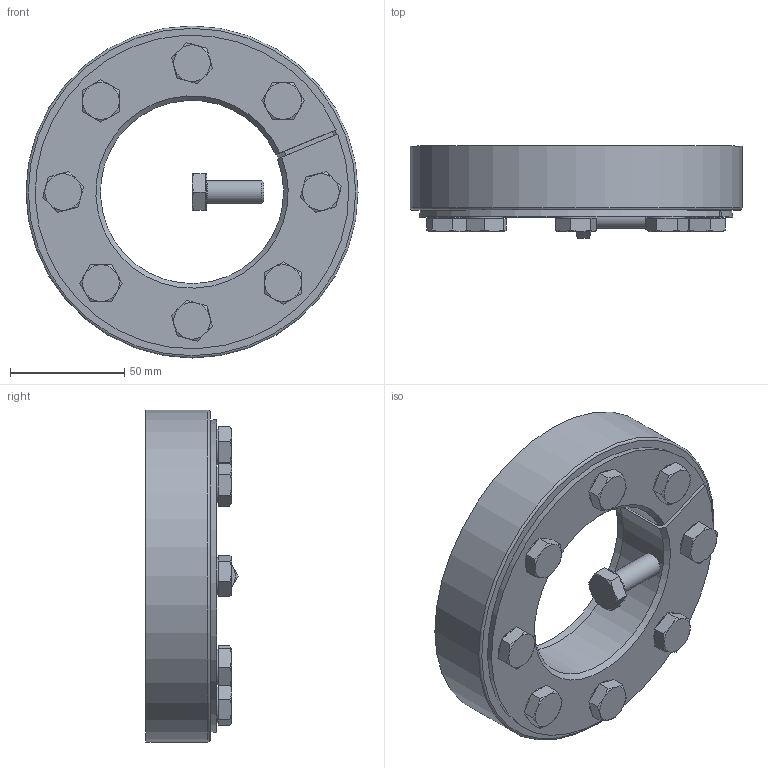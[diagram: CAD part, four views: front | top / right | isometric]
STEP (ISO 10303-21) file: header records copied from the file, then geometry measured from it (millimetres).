
FILE_DESCRIPTION( ( 'Unknown' ), '1' );
FILE_NAME( 'C:/Dokumente und Einstellungen/Sven/Desktop/homepage/cad - homepage/KBS19-1/KBS 19_1 - 80 x 145.stp', 'Unknown', ( 'Unknown' ), ( 'Unknown' ), 'XStep 1.0', 'Unknown', ' ' );
FILE_SCHEMA( ( 'automotive_design' ) );
Length unit declared in the file: millimetre
Products named in the file (3): Assem1; KBS 19_1 - 80 x 145; ISO 4017 - M10 x 25-N
Bounding box: 145 x 40.24 x 145 mm (x, y, z)
Volume: 687838.2 mm3; surface area: 117841.4 mm2
Topology: 11 solids, 11 shells, 271 faces, 606 edges, 366 vertices
Faces by surface type: plane 153, cone 69, cylinder 38, torus 11
Full cylindrical faces by diameter (mm): 10 x25, 16 x9, 145 x2
Entity records: 1674 total; most frequent: CARTESIAN_POINT 305, DIRECTION 240, ORIENTED_EDGE 198, AXIS2_PLACEMENT_3D 101, EDGE_CURVE 99, EDGE_LOOP 81, VERTEX_POINT 70, FACE_OUTER_BOUND 61
